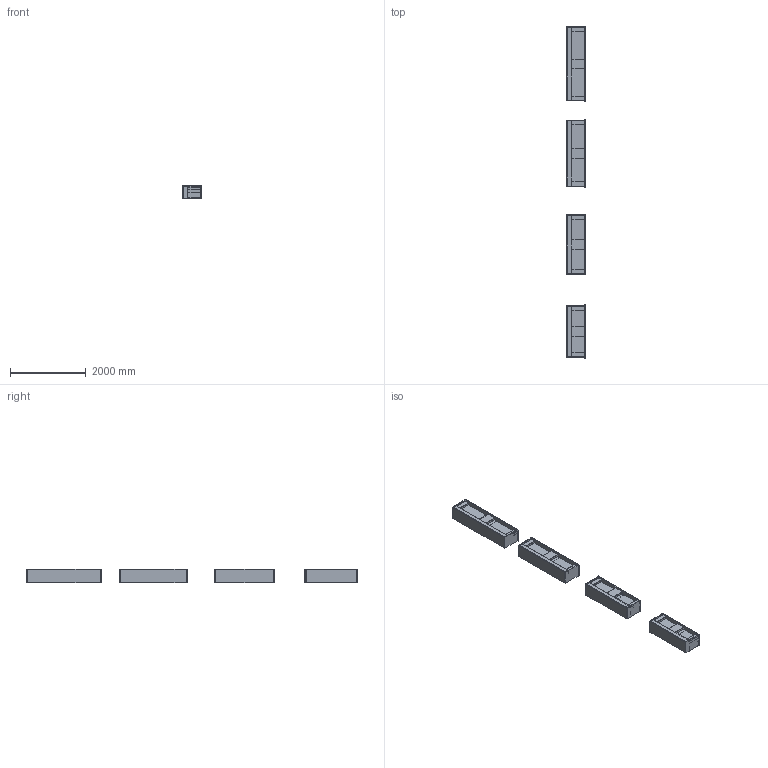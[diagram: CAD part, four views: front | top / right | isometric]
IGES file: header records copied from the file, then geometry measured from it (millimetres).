
Global section: file name: \\Archi-NAS\Comune\X GIOVANNI\SCHEDE PRODOTTO\LAVABI\SOSPESI\HEDONIST\HEDONIST 2\MOMA DESIGN_LAVABI SOSPESI_HEDONIST 2.igs; native system: Rhinoceros ( Jan 17 2018 ); preprocessor: Trout Lake IGES 012 Jan 17 2018; date: 240418.131836; units: millimetre
Bounding box: 500 x 8770.48 x 350 mm (x, y, z)
Surface area: 30736557.2 mm2 (no closed solid volume)
Topology: 0 solids, 0 shells, 624 faces, 2608 edges, 2636 vertices
Faces by surface type: bspline 624
